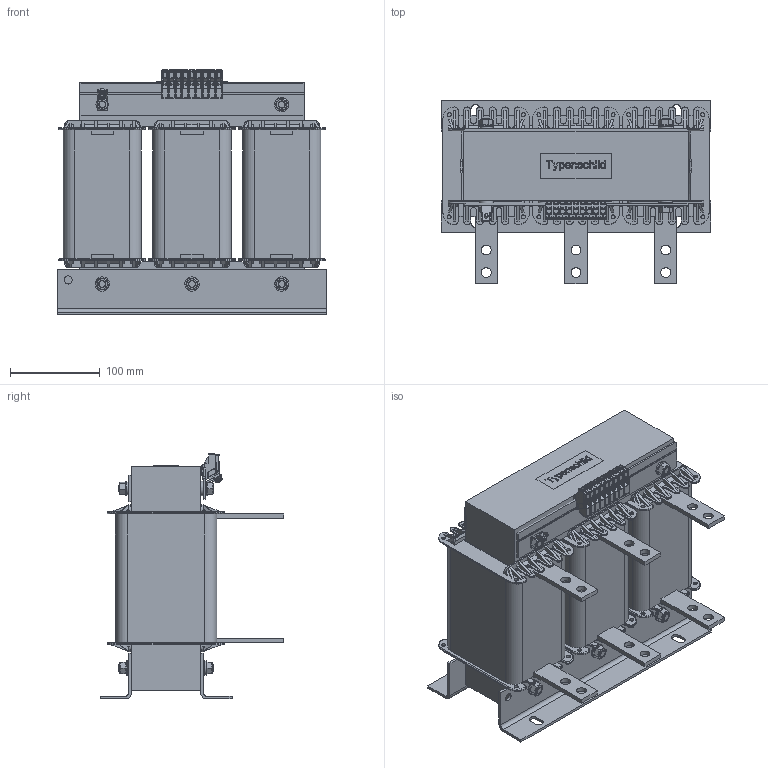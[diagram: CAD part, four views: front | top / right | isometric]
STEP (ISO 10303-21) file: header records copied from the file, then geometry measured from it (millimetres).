
FILE_DESCRIPTION(/* description */ (''),/* implementation_level */ '2;1');
FILE_NAME(/* name */ 'DTZ4,0 200-690V_18,5V.stp',/* time_stamp */ '2023-10-04T13:33:57+02:00',/* author */ ('CERNY'),/* organization */ (''),/* preprocessor_version */ 'ST-DEVELOPER v19.2',/* originating_system */ 'Autodesk Inventor 2023',/* authorisation */ '');
FILE_SCHEMA (('AUTOMOTIVE_DESIGN { 1 0 10303 214 3 1 1 }'));
Products named in the file (1): X0001 DTZ 017
Bounding box: 300 x 204.85 x 274 mm (x, y, z)
Volume: 6465037.3 mm3; surface area: 959582.3 mm2
Topology: 4 solids, 4 shells, 7185 faces, 19529 edges, 12377 vertices
Faces by surface type: plane 4812, cylinder 1504, bspline 424, torus 401, cone 43, sphere 1
Full cylindrical faces by diameter (mm): 4 x1, 4.5 x24, 5 x1, 8 x8, 9 x2, 11 x13, 14 x9, 16 x11
Entity records: 240007 total; most frequent: CARTESIAN_POINT 51465, ORIENTED_EDGE 38984, DIRECTION 36291, EDGE_CURVE 19492, LINE 14983, VECTOR 14983, VERTEX_POINT 12377, AXIS2_PLACEMENT_3D 10654
